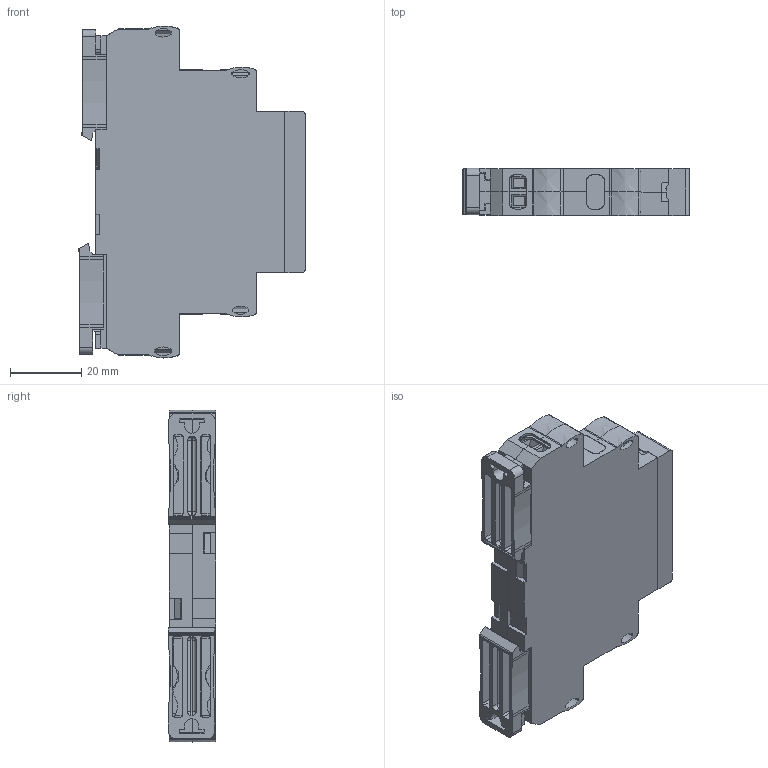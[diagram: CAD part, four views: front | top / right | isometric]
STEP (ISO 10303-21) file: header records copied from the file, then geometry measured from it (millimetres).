
FILE_DESCRIPTION(('STEP AP203'), '1');
FILE_NAME('栖闉罻_捘-2-1', '', ('UNSPECIFIED'), ('UNSPECIFIED'), 'ASCON STEP Converter 1.6', 'ASCON Math Kernel', '');
FILE_SCHEMA(('CONFIG_CONTROL_DESIGN'));
Length unit declared in the file: millimetre
Products named in the file (11): Case13-18-23mm_2step_Half_v01a_Build20140909_1552_6.5mm; Case13-18-23mm_2step_Lock_v01a_Build20140909_1552; Case13_Face; Case13_plug
Assembly tree (19 placements, depth 3):
  (unnamed)
    Case13-18-23mm_2step_Half_v01a_Build20140909_1552_6.5mm  x2
    Case13-18-23mm_2step_Lock_v01a_Build20140909_1552  x2
    Case13_Face
    (unnamed)  x4
      (unnamed)
    Case13_plug  x4
    (unnamed)
    (unnamed)
    (unnamed)
    (unnamed)
Bounding box: 63.51 x 13.2 x 92.99 mm (x, y, z)
Volume: 21335.2 mm3; surface area: 36783.2 mm2
Topology: 245 solids, 246 shells, 10204 faces, 28916 edges, 19220 vertices
Faces by surface type: plane 7893, extrusion 1999, cylinder 272, cone 24, sphere 8, bspline 4, torus 4
Full cylindrical faces by diameter (mm): 1.238 x8, 3.9 x8
Entity records: 381009 total; most frequent: CARTESIAN_POINT 72472, ORIENTED_EDGE 52370, DIRECTION 38902, EDGE_CURVE 26185, VECTOR 23916, LINE 21917, VERTEX_POINT 17446, COLOUR_RGB 9451
